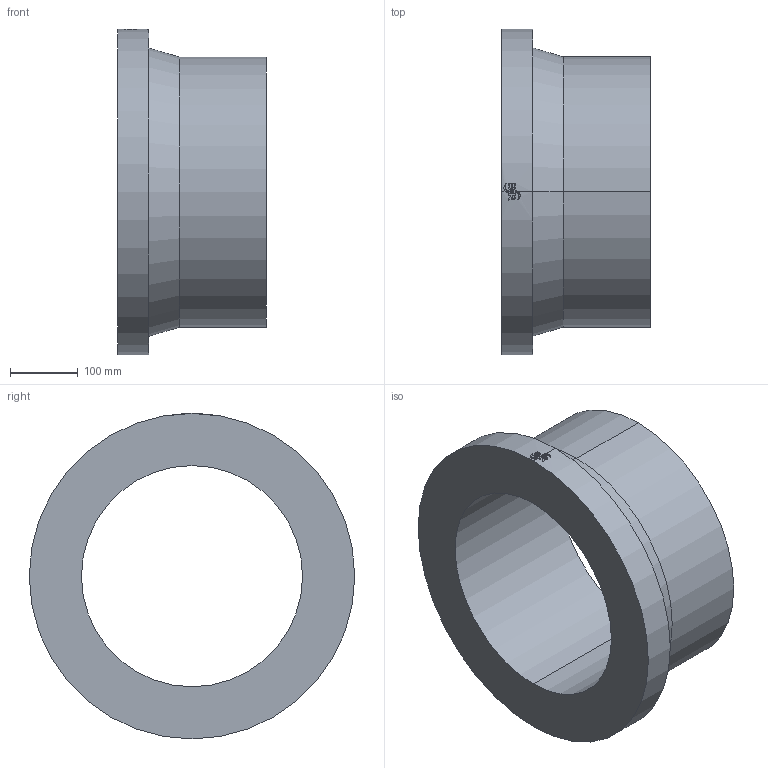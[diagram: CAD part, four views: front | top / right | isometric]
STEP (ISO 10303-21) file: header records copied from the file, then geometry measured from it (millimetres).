
FILE_DESCRIPTION (( 'STEP AP214' ), '1' );
FILE_NAME ('233525F015.STEP', '2018-07-20T11:20:57', ( '' ), ( '' ), 'SwSTEP 2.0', 'SolidWorks 2017', '' );
FILE_SCHEMA (( 'AUTOMOTIVE_DESIGN' ));
Length unit declared in the file: millimetre
Products named in the file (1): 233525F015
Bounding box: 220 x 482 x 482.5 mm (x, y, z)
Volume: 12128123.2 mm3; surface area: 698201.8 mm2
Topology: 1 solids, 1 shells, 60 faces, 154 edges, 102 vertices
Faces by surface type: cylinder 29, plane 29, cone 2
Entity records: 2988 total; most frequent: CARTESIAN_POINT 871, ORIENTED_EDGE 308, DIRECTION 282, EDGE_CURVE 154, AXIS2_PLACEMENT_3D 107, VERTEX_POINT 102, LINE 68, VECTOR 68
